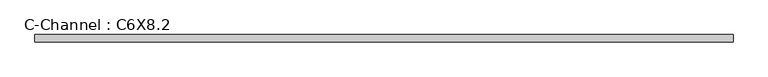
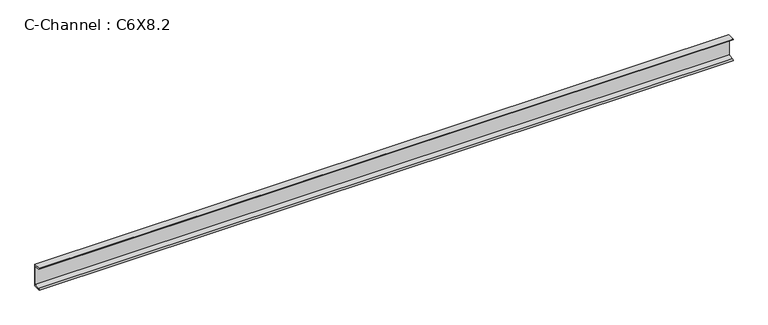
"""IFC4 building model written with IfcOpenShell, lengths in millimetres: beam geometry, C-Channel : C6X8.2."""

from ifc_helpers import new_model, si_unit, point, frame, frame_2d, origin, place, context, project, spatial, polyline, circle_curve, trimmed, segment, composite_curve, outline, extrude, source, transform, mapped, element, save


def c_channel_c6x8_2_ec91256f(model_context):
    return source(origin(), model_context, "Body", "SweptSolid", [
        extrude(outline(composite_curve([segment(polyline([(13.0048, 76.2), (13.0048, -76.2), (-35.7632, -76.2)]), True, "CONTINUOUS"), segment(trimmed(circle_curve(frame_2d((-27.051, -76.2)), 8.7122), [point((-35.7632, -76.2))], [point((-27.051, -67.4878))], False, "CARTESIAN"), True, "CONTINUOUS"), segment(polyline([(-27.051, -67.4878), (7.9248, -61.9481775), (7.9248, 61.9481775), (-27.051, 67.4878)]), True, "CONTINUOUS"), segment(trimmed(circle_curve(frame_2d((-27.051, 76.2)), 8.7122), [point((-27.051, 67.4878))], [point((-35.7632, 76.2))], False, "CARTESIAN"), True, "CONTINUOUS"), segment(polyline([(-35.7632, 76.2), (13.0048, 76.2)]), True, "CONTINUOUS")], self_intersect=False)), frame((-2247.9046649, 0.0, 0.0), z_axis=(1.0, 0.0, 0.0), x_axis=(0.0, 1.0, 0.0)), (0.0, 0.0, 1.0), 4620.2969472),
    ])


if __name__ == "__main__":
    model = new_model("IFC4")
    model_context = context("Model", 3, world=origin())
    ifc_project = project(units=[si_unit("LENGTHUNIT", "METRE", prefix="MILLI")], contexts=[model_context])
    site = spatial("IfcSite", under=ifc_project)
    building = spatial("IfcBuilding", under=site)
    placement = place(None, origin())
    c_channel_c6x8_2_shape = c_channel_c6x8_2_ec91256f(model_context)
    element("IfcBeam", 1, ObjectType="C-Channel : C6X8.2", at=placement, inside=building, context=model_context, shape_type="MappedRepresentation", body=[
        mapped(c_channel_c6x8_2_shape, transform((0.0, 0.0, 0.0), x_axis=(1.0, 0.0, 0.0), y_axis=(0.0, 1.0, 0.0), z_axis=(0.0, 0.0, 1.0))),
    ])
    save(model, "model.ifc")
